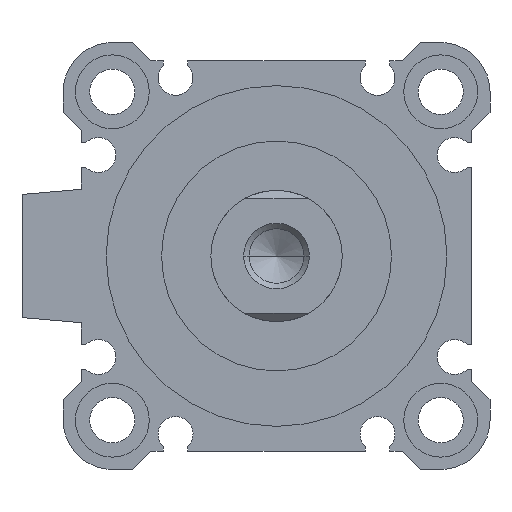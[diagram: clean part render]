
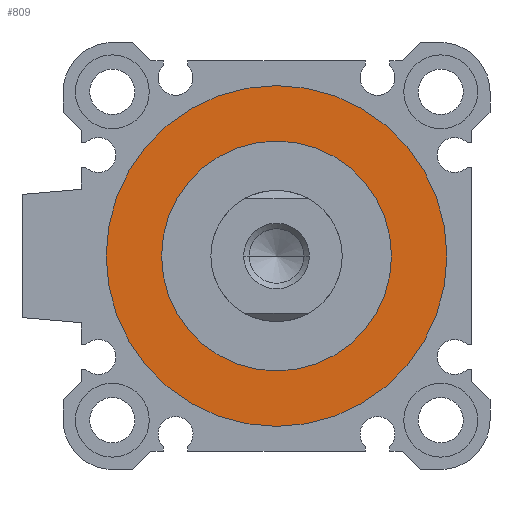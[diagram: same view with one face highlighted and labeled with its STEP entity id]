
A CAD part, left-side view. The second image highlights one B-rep face of the part: STEP entity #809.
In plain terms, the highlighted planar face has unit normal (-1, 0, 0).
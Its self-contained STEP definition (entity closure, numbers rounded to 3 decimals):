
#41 = CIRCLE ( 'NONE', #4519, 20.75 ) ;
#399 = ORIENTED_EDGE ( 'NONE', *, *, #2531, .F. ) ;
#450 = AXIS2_PLACEMENT_3D ( 'NONE', #1841, #4248, #742 ) ;
#507 = EDGE_LOOP ( 'NONE', ( #399, #2006 ) ) ;
#509 = VERTEX_POINT ( 'NONE', #1512 ) ;
#705 = EDGE_LOOP ( 'NONE', ( #2787, #1941 ) ) ;
#742 = DIRECTION ( 'NONE',  ( 0., 0., -1. ) ) ;
#751 = DIRECTION ( 'NONE',  ( 1., 0., 0. ) ) ;
#809 = ADVANCED_FACE ( 'NONE', ( #3977, #3062 ), #4610, .F. ) ;
#1093 = DIRECTION ( 'NONE',  ( 1., 0., 0. ) ) ;
#1116 = CIRCLE ( 'NONE', #3074, 20.75 ) ;
#1273 = DIRECTION ( 'NONE',  ( 0., 1., 0. ) ) ;
#1372 = DIRECTION ( 'NONE',  ( 0., 0., -1. ) ) ;
#1475 = CARTESIAN_POINT ( 'NONE',  ( 3.3, 0., 0. ) ) ;
#1482 = CARTESIAN_POINT ( 'NONE',  ( 3.3, 0., 14. ) ) ;
#1512 = CARTESIAN_POINT ( 'NONE',  ( 3.3, 0., -20.75 ) ) ;
#1841 = CARTESIAN_POINT ( 'NONE',  ( 3.3, 0., 0. ) ) ;
#1847 = DIRECTION ( 'NONE',  ( 0., 0., -1. ) ) ;
#1941 = ORIENTED_EDGE ( 'NONE', *, *, #2168, .T. ) ;
#1978 = CIRCLE ( 'NONE', #4270, 14. ) ;
#2006 = ORIENTED_EDGE ( 'NONE', *, *, #4642, .F. ) ;
#2168 = EDGE_CURVE ( 'NONE', #4149, #3093, #1978, .T. ) ;
#2371 = DIRECTION ( 'NONE',  ( 1., 0., 0. ) ) ;
#2531 = EDGE_CURVE ( 'NONE', #3900, #509, #41, .T. ) ;
#2537 = AXIS2_PLACEMENT_3D ( 'NONE', #1475, #1093, #1273 ) ;
#2787 = ORIENTED_EDGE ( 'NONE', *, *, #3094, .T. ) ;
#3062 = FACE_BOUND ( 'NONE', #705, .T. ) ;
#3074 = AXIS2_PLACEMENT_3D ( 'NONE', #4341, #2371, #3930 ) ;
#3093 = VERTEX_POINT ( 'NONE', #1482 ) ;
#3094 = EDGE_CURVE ( 'NONE', #3093, #4149, #3713, .T. ) ;
#3694 = CARTESIAN_POINT ( 'NONE',  ( 3.3, 0., 20.75 ) ) ;
#3713 = CIRCLE ( 'NONE', #450, 14. ) ;
#3763 = CARTESIAN_POINT ( 'NONE',  ( 3.3, 0., -14. ) ) ;
#3900 = VERTEX_POINT ( 'NONE', #3694 ) ;
#3930 = DIRECTION ( 'NONE',  ( 0., 0., -1. ) ) ;
#3977 = FACE_OUTER_BOUND ( 'NONE', #507, .T. ) ;
#4149 = VERTEX_POINT ( 'NONE', #3763 ) ;
#4248 = DIRECTION ( 'NONE',  ( 1., 0., 0. ) ) ;
#4256 = CARTESIAN_POINT ( 'NONE',  ( 3.3, 0., 0. ) ) ;
#4270 = AXIS2_PLACEMENT_3D ( 'NONE', #4256, #751, #1847 ) ;
#4341 = CARTESIAN_POINT ( 'NONE',  ( 3.3, 0., 0. ) ) ;
#4519 = AXIS2_PLACEMENT_3D ( 'NONE', #4907, #4858, #1372 ) ;
#4610 = PLANE ( 'NONE',  #2537 ) ;
#4642 = EDGE_CURVE ( 'NONE', #509, #3900, #1116, .T. ) ;
#4858 = DIRECTION ( 'NONE',  ( 1., 0., 0. ) ) ;
#4907 = CARTESIAN_POINT ( 'NONE',  ( 3.3, 0., 0. ) ) ;
